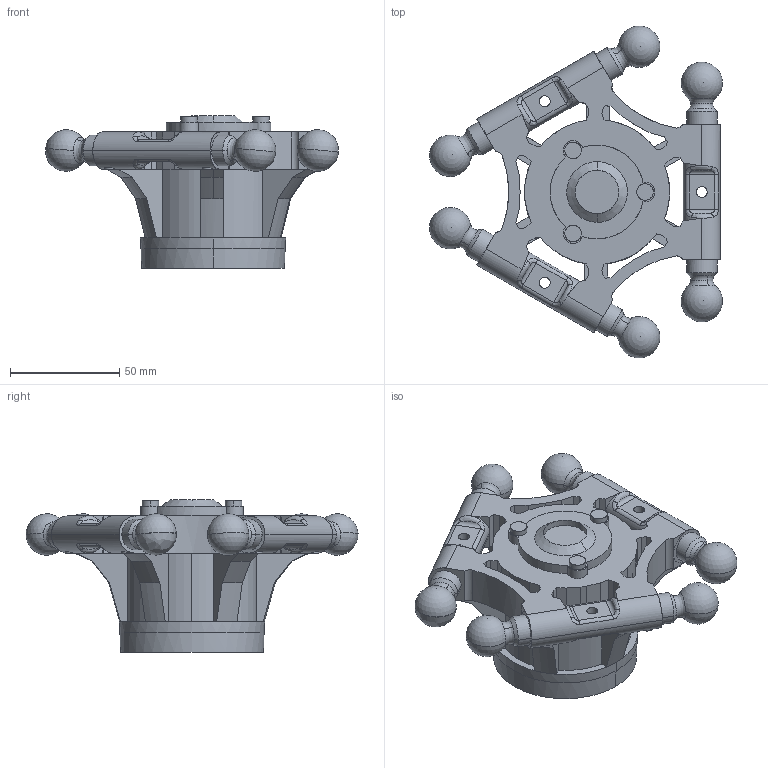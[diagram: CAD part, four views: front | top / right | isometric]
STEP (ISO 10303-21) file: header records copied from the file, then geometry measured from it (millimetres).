
FILE_DESCRIPTION (( 'STEP AP214' ), '1' );
FILE_NAME ('IRB360_8-1130-STD-4D_rev03_MovingPlate_CAD.step', '2025-01-14T07:06:02', ( '' ), ( '' ), 'SwSTEP 2.0', 'SolidWorks 2022', '' );
FILE_SCHEMA (( 'AUTOMOTIVE_DESIGN' ));
Length unit declared in the file: millimetre
Products named in the file (1): IRB360_8-1130-STD-4D_rev03_MovingPlate_CAD
Bounding box: 134.23 x 152.13 x 70 mm (x, y, z)
Volume: 296116.7 mm3; surface area: 51960.5 mm2
Topology: 1 solids, 1 shells, 436 faces, 1264 edges, 826 vertices
Faces by surface type: plane 209, cylinder 86, bspline 76, cone 46, sphere 12, torus 7
Entity records: 49418 total; most frequent: CARTESIAN_POINT 38524, ORIENTED_EDGE 2460, DIRECTION 1543, EDGE_CURVE 1230, VERTEX_POINT 806, LINE 619, VECTOR 619, B_SPLINE_CURVE_WITH_KNOTS 500
